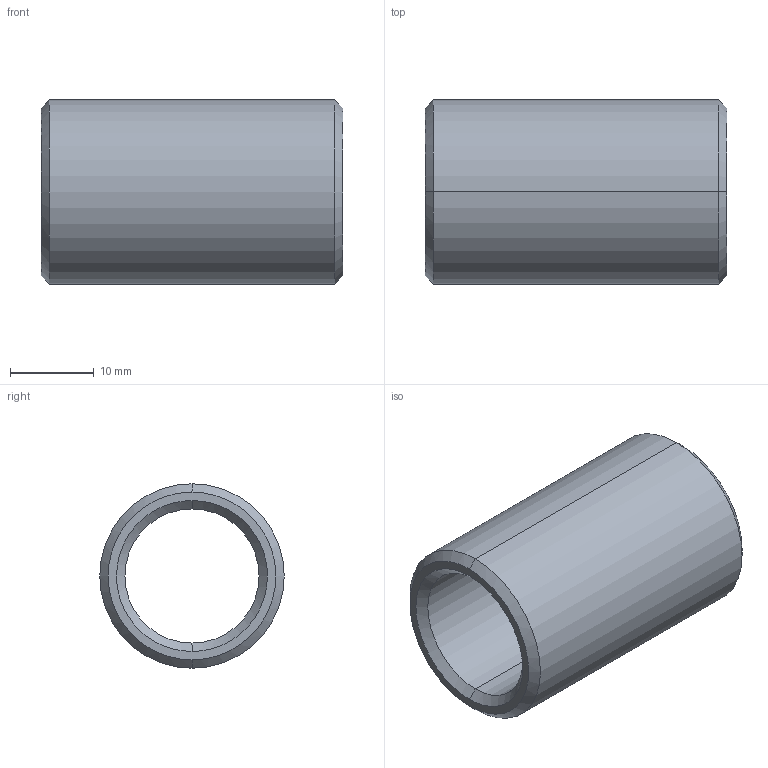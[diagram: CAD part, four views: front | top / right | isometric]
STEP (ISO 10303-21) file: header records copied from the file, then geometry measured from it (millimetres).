
FILE_DESCRIPTION(('CATIA V5 STEP Exchange'),'2;1');
FILE_NAME('C:\Users\Utente\Desktop\IO LAVORO\3D X SITO CF\X SITO\PLASTICA\352\352-16X36.stp','2021-04-10T09:07:34+00:00',('none'),('none'),'CATIA Version 5 Release 20 GA (IN-10)','CATIA V5 STEP AP203','none');
FILE_SCHEMA(('CONFIG_CONTROL_DESIGN'));
Length unit declared in the file: millimetre
Products named in the file (1): 352-16X36
Bounding box: 36 x 22 x 22 mm (x, y, z)
Volume: 6342.3 mm3; surface area: 4523 mm2
Topology: 1 solids, 1 shells, 14 faces, 44 edges, 32 vertices
Faces by surface type: cone 6, cylinder 4, plane 2, torus 2
Entity records: 634 total; most frequent: CARTESIAN_POINT 203, ORIENTED_EDGE 88, DIRECTION 64, EDGE_CURVE 44, AXIS2_PLACEMENT_3D 41, VERTEX_POINT 32, CIRCLE 26, EDGE_LOOP 16
